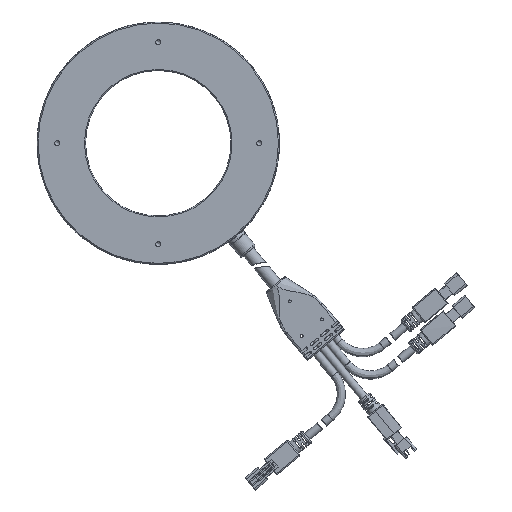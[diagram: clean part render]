
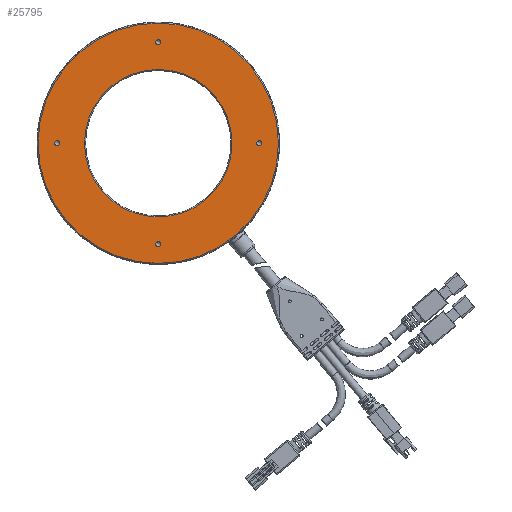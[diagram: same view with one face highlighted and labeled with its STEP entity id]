
A CAD part, front view. The second image highlights one B-rep face of the part: STEP entity #25795.
In plain terms, the highlighted planar face has unit normal (0, -1, 0).
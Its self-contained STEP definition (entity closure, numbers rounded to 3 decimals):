
#157 = DIRECTION ( 'NONE',  ( 0., 0., 1. ) ) ;
#1207 = CARTESIAN_POINT ( 'NONE',  ( 0., 19.364, 0. ) ) ;
#1400 = FACE_BOUND ( 'NONE', #50056, .T. ) ;
#3481 = FACE_OUTER_BOUND ( 'NONE', #29541, .T. ) ;
#4076 = CIRCLE ( 'NONE', #37380, 1.25 ) ;
#4183 = AXIS2_PLACEMENT_3D ( 'NONE', #42609, #42216, #16201 ) ;
#5550 = EDGE_LOOP ( 'NONE', ( #37772 ) ) ;
#5939 = DIRECTION ( 'NONE',  ( 0., 1., 0. ) ) ;
#6056 = DIRECTION ( 'NONE',  ( 0., 0., 1. ) ) ;
#6187 = EDGE_CURVE ( 'NONE', #10697, #10697, #13170, .T. ) ;
#6238 = FACE_BOUND ( 'NONE', #5550, .T. ) ;
#7379 = EDGE_CURVE ( 'NONE', #52129, #52129, #4076, .T. ) ;
#7624 = EDGE_LOOP ( 'NONE', ( #53060 ) ) ;
#9139 = AXIS2_PLACEMENT_3D ( 'NONE', #17723, #53062, #157 ) ;
#9182 = CARTESIAN_POINT ( 'NONE',  ( 50., 19.364, 1.25 ) ) ;
#10016 = DIRECTION ( 'NONE',  ( 0., 0., 1. ) ) ;
#10697 = VERTEX_POINT ( 'NONE', #31309 ) ;
#12524 = CIRCLE ( 'NONE', #4183, 59.5 ) ;
#13170 = CIRCLE ( 'NONE', #41750, 1.25 ) ;
#14080 = CARTESIAN_POINT ( 'NONE',  ( 0., 19.364, -50. ) ) ;
#14236 = EDGE_CURVE ( 'NONE', #22429, #22429, #50696, .T. ) ;
#14434 = CIRCLE ( 'NONE', #18297, 1.25 ) ;
#14894 = CARTESIAN_POINT ( 'NONE',  ( -50., 19.364, 0. ) ) ;
#16201 = DIRECTION ( 'NONE',  ( 0., 0., 1. ) ) ;
#17723 = CARTESIAN_POINT ( 'NONE',  ( 0., 19.364, 0. ) ) ;
#18297 = AXIS2_PLACEMENT_3D ( 'NONE', #14080, #5939, #10016 ) ;
#19404 = ORIENTED_EDGE ( 'NONE', *, *, #14236, .T. ) ;
#20792 = DIRECTION ( 'NONE',  ( 0., 1., 0. ) ) ;
#21168 = CARTESIAN_POINT ( 'NONE',  ( 50., 19.364, 0. ) ) ;
#22429 = VERTEX_POINT ( 'NONE', #53746 ) ;
#24512 = DIRECTION ( 'NONE',  ( 0., 1., 0. ) ) ;
#25795 = ADVANCED_FACE ( 'NONE', ( #26940, #3481, #6238, #1400, #33875, #51846 ), #30821, .F. ) ;
#25954 = CIRCLE ( 'NONE', #52158, 36.5 ) ;
#26309 = ORIENTED_EDGE ( 'NONE', *, *, #46009, .T. ) ;
#26940 = FACE_BOUND ( 'NONE', #35937, .T. ) ;
#27856 = CARTESIAN_POINT ( 'NONE',  ( 0., 19.364, 59.5 ) ) ;
#29541 = EDGE_LOOP ( 'NONE', ( #26309 ) ) ;
#30821 = PLANE ( 'NONE',  #9139 ) ;
#31309 = CARTESIAN_POINT ( 'NONE',  ( 0., 19.364, 51.25 ) ) ;
#32005 = DIRECTION ( 'NONE',  ( 0., 0., 1. ) ) ;
#33374 = CARTESIAN_POINT ( 'NONE',  ( 0., 19.364, 50. ) ) ;
#33875 = FACE_BOUND ( 'NONE', #7624, .T. ) ;
#34507 = EDGE_LOOP ( 'NONE', ( #38881 ) ) ;
#34863 = VERTEX_POINT ( 'NONE', #45806 ) ;
#35937 = EDGE_LOOP ( 'NONE', ( #39539 ) ) ;
#36166 = DIRECTION ( 'NONE',  ( 0., 1., 0. ) ) ;
#36529 = CARTESIAN_POINT ( 'NONE',  ( 0., 19.364, 36.5 ) ) ;
#37380 = AXIS2_PLACEMENT_3D ( 'NONE', #21168, #20792, #51667 ) ;
#37772 = ORIENTED_EDGE ( 'NONE', *, *, #48953, .T. ) ;
#38881 = ORIENTED_EDGE ( 'NONE', *, *, #7379, .T. ) ;
#39539 = ORIENTED_EDGE ( 'NONE', *, *, #41832, .T. ) ;
#40383 = VERTEX_POINT ( 'NONE', #27856 ) ;
#40532 = AXIS2_PLACEMENT_3D ( 'NONE', #14894, #54074, #32005 ) ;
#41750 = AXIS2_PLACEMENT_3D ( 'NONE', #33374, #24512, #55046 ) ;
#41832 = EDGE_CURVE ( 'NONE', #48700, #48700, #25954, .T. ) ;
#42216 = DIRECTION ( 'NONE',  ( 0., -1., 0. ) ) ;
#42609 = CARTESIAN_POINT ( 'NONE',  ( 0., 19.364, 0. ) ) ;
#45806 = CARTESIAN_POINT ( 'NONE',  ( 0., 19.364, -48.75 ) ) ;
#46009 = EDGE_CURVE ( 'NONE', #40383, #40383, #12524, .T. ) ;
#48700 = VERTEX_POINT ( 'NONE', #36529 ) ;
#48953 = EDGE_CURVE ( 'NONE', #34863, #34863, #14434, .T. ) ;
#50056 = EDGE_LOOP ( 'NONE', ( #19404 ) ) ;
#50696 = CIRCLE ( 'NONE', #40532, 1.25 ) ;
#51667 = DIRECTION ( 'NONE',  ( 0., 0., 1. ) ) ;
#51846 = FACE_BOUND ( 'NONE', #34507, .T. ) ;
#52129 = VERTEX_POINT ( 'NONE', #9182 ) ;
#52158 = AXIS2_PLACEMENT_3D ( 'NONE', #1207, #36166, #6056 ) ;
#53060 = ORIENTED_EDGE ( 'NONE', *, *, #6187, .T. ) ;
#53062 = DIRECTION ( 'NONE',  ( 0., 1., 0. ) ) ;
#53746 = CARTESIAN_POINT ( 'NONE',  ( -50., 19.364, 1.25 ) ) ;
#54074 = DIRECTION ( 'NONE',  ( 0., 1., 0. ) ) ;
#55046 = DIRECTION ( 'NONE',  ( 0., 0., 1. ) ) ;
